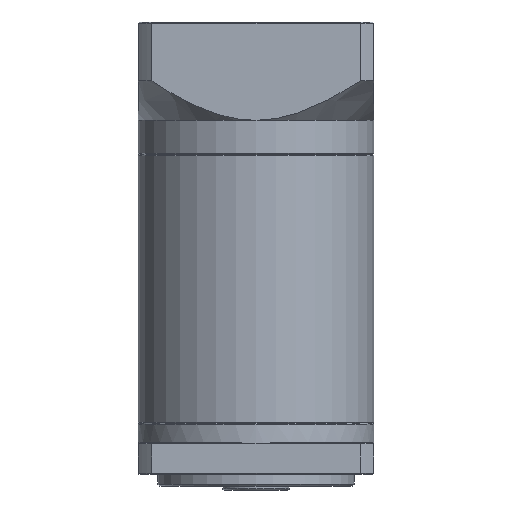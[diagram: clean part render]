
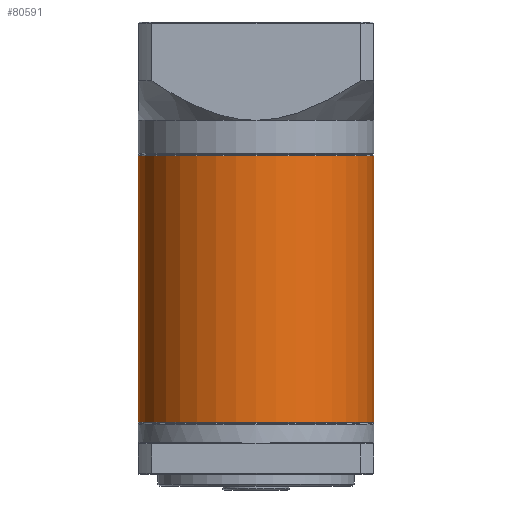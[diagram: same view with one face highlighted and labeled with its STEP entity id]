
A CAD part, front view. The second image highlights one B-rep face of the part: STEP entity #80591.
In plain terms, the highlighted cylindrical face has radius 30 mm (diameter 60 mm), a partial arc.
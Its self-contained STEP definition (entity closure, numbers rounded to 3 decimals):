
#4128 = VECTOR ( 'NONE', #13298, 1000. ) ;
#8441 = DIRECTION ( 'NONE',  ( 0., 0., -1. ) ) ;
#11075 = VERTEX_POINT ( 'NONE', #60952 ) ;
#13012 = EDGE_LOOP ( 'NONE', ( #62782, #89636, #17376, #99765 ) ) ;
#13070 = AXIS2_PLACEMENT_3D ( 'NONE', #13551, #13890, #69533 ) ;
#13298 = DIRECTION ( 'NONE',  ( 0., 0., -1. ) ) ;
#13551 = CARTESIAN_POINT ( 'NONE',  ( -59.679, 25.271, -83.312 ) ) ;
#13890 = DIRECTION ( 'NONE',  ( 0., 0., 1. ) ) ;
#14033 = CARTESIAN_POINT ( 'NONE',  ( -59.679, 25.271, -15.512 ) ) ;
#15335 = VERTEX_POINT ( 'NONE', #99521 ) ;
#17376 = ORIENTED_EDGE ( 'NONE', *, *, #101304, .T. ) ;
#20235 = EDGE_CURVE ( 'NONE', #35563, #11075, #53903, .T. ) ;
#21449 = VECTOR ( 'NONE', #8441, 1000. ) ;
#22022 = DIRECTION ( 'NONE',  ( 0., 0., -1. ) ) ;
#22070 = VERTEX_POINT ( 'NONE', #34217 ) ;
#25273 = LINE ( 'NONE', #60636, #4128 ) ;
#25731 = EDGE_CURVE ( 'NONE', #22070, #15335, #57534, .T. ) ;
#27803 = EDGE_CURVE ( 'NONE', #22070, #11075, #25273, .T. ) ;
#34217 = CARTESIAN_POINT ( 'NONE',  ( -29.679, 25.271, -15.512 ) ) ;
#35563 = VERTEX_POINT ( 'NONE', #72860 ) ;
#47893 = CARTESIAN_POINT ( 'NONE',  ( -89.679, 25.271, -15.262 ) ) ;
#49386 = DIRECTION ( 'NONE',  ( -1., 0., 0. ) ) ;
#53903 = CIRCLE ( 'NONE', #13070, 30. ) ;
#57296 = DIRECTION ( 'NONE',  ( 0., 0., -1. ) ) ;
#57534 = CIRCLE ( 'NONE', #85876, 30. ) ;
#58493 = AXIS2_PLACEMENT_3D ( 'NONE', #88457, #57296, #49386 ) ;
#60636 = CARTESIAN_POINT ( 'NONE',  ( -29.679, 25.271, -15.262 ) ) ;
#60952 = CARTESIAN_POINT ( 'NONE',  ( -29.679, 25.271, -83.312 ) ) ;
#62782 = ORIENTED_EDGE ( 'NONE', *, *, #27803, .F. ) ;
#65699 = FACE_OUTER_BOUND ( 'NONE', #13012, .T. ) ;
#69001 = DIRECTION ( 'NONE',  ( 1., 0., 0. ) ) ;
#69533 = DIRECTION ( 'NONE',  ( 1., 0., 0. ) ) ;
#72860 = CARTESIAN_POINT ( 'NONE',  ( -89.679, 25.271, -83.312 ) ) ;
#75875 = LINE ( 'NONE', #47893, #21449 ) ;
#80591 = ADVANCED_FACE ( 'NONE', ( #65699 ), #89208, .T. ) ;
#85876 = AXIS2_PLACEMENT_3D ( 'NONE', #14033, #22022, #69001 ) ;
#88457 = CARTESIAN_POINT ( 'NONE',  ( -59.679, 25.271, -15.262 ) ) ;
#89208 = CYLINDRICAL_SURFACE ( 'NONE', #58493, 30. ) ;
#89636 = ORIENTED_EDGE ( 'NONE', *, *, #25731, .T. ) ;
#99521 = CARTESIAN_POINT ( 'NONE',  ( -89.679, 25.271, -15.512 ) ) ;
#99765 = ORIENTED_EDGE ( 'NONE', *, *, #20235, .T. ) ;
#101304 = EDGE_CURVE ( 'NONE', #15335, #35563, #75875, .T. ) ;
